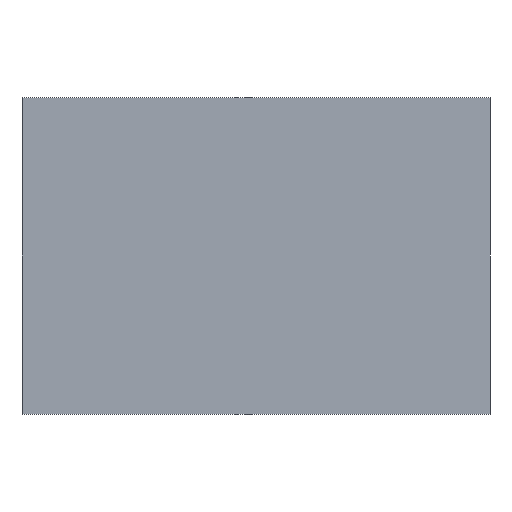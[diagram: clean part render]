
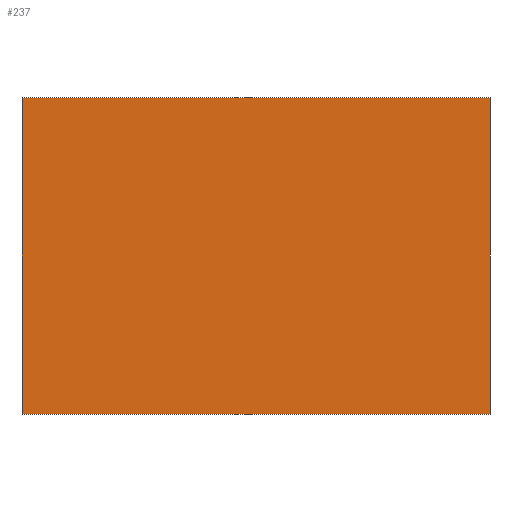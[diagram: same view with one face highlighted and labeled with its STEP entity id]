
A CAD part, front view. The second image highlights one B-rep face of the part: STEP entity #237.
In plain terms, the highlighted planar face has unit normal (0, -1, 0).
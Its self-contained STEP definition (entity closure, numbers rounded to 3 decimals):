
#21 = EDGE_CURVE('',#22,#24,#26,.T.);
#22 = VERTEX_POINT('',#23);
#23 = CARTESIAN_POINT('',(-398.,-76.913,-3.));
#24 = VERTEX_POINT('',#25);
#25 = CARTESIAN_POINT('',(-398.,-76.913,20.));
#26 = SURFACE_CURVE('',#27,(#31,#43),.PCURVE_S1.);
#27 = LINE('',#28,#29);
#28 = CARTESIAN_POINT('',(-398.,-76.913,-3.));
#29 = VECTOR('',#30,1.);
#30 = DIRECTION('',(0.,0.,1.));
#31 = PCURVE('',#32,#37);
#32 = PLANE('',#33);
#33 = AXIS2_PLACEMENT_3D('',#34,#35,#36);
#34 = CARTESIAN_POINT('',(-398.,-76.913,-3.));
#35 = DIRECTION('',(1.,0.,-0.));
#36 = DIRECTION('',(0.,0.,1.));
#37 = DEFINITIONAL_REPRESENTATION('',(#38),#42);
#38 = LINE('',#39,#40);
#39 = CARTESIAN_POINT('',(0.,0.));
#40 = VECTOR('',#41,1.);
#41 = DIRECTION('',(1.,0.));
#42 = ( GEOMETRIC_REPRESENTATION_CONTEXT(2) 
PARAMETRIC_REPRESENTATION_CONTEXT() REPRESENTATION_CONTEXT('2D SPACE',''
  ) );
#43 = PCURVE('',#44,#49);
#44 = PLANE('',#45);
#45 = AXIS2_PLACEMENT_3D('',#46,#47,#48);
#46 = CARTESIAN_POINT('',(-398.,-76.913,-3.));
#47 = DIRECTION('',(-0.,1.,0.));
#48 = DIRECTION('',(0.,0.,1.));
#49 = DEFINITIONAL_REPRESENTATION('',(#50),#54);
#50 = LINE('',#51,#52);
#51 = CARTESIAN_POINT('',(0.,0.));
#52 = VECTOR('',#53,1.);
#53 = DIRECTION('',(1.,0.));
#54 = ( GEOMETRIC_REPRESENTATION_CONTEXT(2) 
PARAMETRIC_REPRESENTATION_CONTEXT() REPRESENTATION_CONTEXT('2D SPACE',''
  ) );
#72 = PLANE('',#73);
#73 = AXIS2_PLACEMENT_3D('',#74,#75,#76);
#74 = CARTESIAN_POINT('',(-398.,-76.913,-3.));
#75 = DIRECTION('',(0.,0.,1.));
#76 = DIRECTION('',(1.,0.,-0.));
#126 = PLANE('',#127);
#127 = AXIS2_PLACEMENT_3D('',#128,#129,#130);
#128 = CARTESIAN_POINT('',(-398.,-76.913,20.));
#129 = DIRECTION('',(0.,0.,1.));
#130 = DIRECTION('',(1.,0.,-0.));
#141 = EDGE_CURVE('',#142,#144,#146,.T.);
#142 = VERTEX_POINT('',#143);
#143 = CARTESIAN_POINT('',(-364.,-76.913,-3.));
#144 = VERTEX_POINT('',#145);
#145 = CARTESIAN_POINT('',(-364.,-76.913,20.));
#146 = SURFACE_CURVE('',#147,(#151,#163),.PCURVE_S1.);
#147 = LINE('',#148,#149);
#148 = CARTESIAN_POINT('',(-364.,-76.913,-3.));
#149 = VECTOR('',#150,1.);
#150 = DIRECTION('',(0.,0.,1.));
#151 = PCURVE('',#152,#157);
#152 = PLANE('',#153);
#153 = AXIS2_PLACEMENT_3D('',#154,#155,#156);
#154 = CARTESIAN_POINT('',(-364.,-76.913,-3.));
#155 = DIRECTION('',(1.,0.,-0.));
#156 = DIRECTION('',(0.,0.,1.));
#157 = DEFINITIONAL_REPRESENTATION('',(#158),#162);
#158 = LINE('',#159,#160);
#159 = CARTESIAN_POINT('',(0.,0.));
#160 = VECTOR('',#161,1.);
#161 = DIRECTION('',(1.,0.));
#162 = ( GEOMETRIC_REPRESENTATION_CONTEXT(2) 
PARAMETRIC_REPRESENTATION_CONTEXT() REPRESENTATION_CONTEXT('2D SPACE',''
  ) );
#163 = PCURVE('',#44,#164);
#164 = DEFINITIONAL_REPRESENTATION('',(#165),#169);
#165 = LINE('',#166,#167);
#166 = CARTESIAN_POINT('',(0.,34.));
#167 = VECTOR('',#168,1.);
#168 = DIRECTION('',(1.,0.));
#169 = ( GEOMETRIC_REPRESENTATION_CONTEXT(2) 
PARAMETRIC_REPRESENTATION_CONTEXT() REPRESENTATION_CONTEXT('2D SPACE',''
  ) );
#237 = ADVANCED_FACE('',(#238),#44,.F.);
#238 = FACE_BOUND('',#239,.F.);
#239 = EDGE_LOOP('',(#240,#261,#262,#283));
#240 = ORIENTED_EDGE('',*,*,#241,.F.);
#241 = EDGE_CURVE('',#22,#142,#242,.T.);
#242 = SURFACE_CURVE('',#243,(#247,#254),.PCURVE_S1.);
#243 = LINE('',#244,#245);
#244 = CARTESIAN_POINT('',(-398.,-76.913,-3.));
#245 = VECTOR('',#246,1.);
#246 = DIRECTION('',(1.,0.,-0.));
#247 = PCURVE('',#44,#248);
#248 = DEFINITIONAL_REPRESENTATION('',(#249),#253);
#249 = LINE('',#250,#251);
#250 = CARTESIAN_POINT('',(0.,0.));
#251 = VECTOR('',#252,1.);
#252 = DIRECTION('',(0.,1.));
#253 = ( GEOMETRIC_REPRESENTATION_CONTEXT(2) 
PARAMETRIC_REPRESENTATION_CONTEXT() REPRESENTATION_CONTEXT('2D SPACE',''
  ) );
#254 = PCURVE('',#72,#255);
#255 = DEFINITIONAL_REPRESENTATION('',(#256),#260);
#256 = LINE('',#257,#258);
#257 = CARTESIAN_POINT('',(0.,0.));
#258 = VECTOR('',#259,1.);
#259 = DIRECTION('',(1.,0.));
#260 = ( GEOMETRIC_REPRESENTATION_CONTEXT(2) 
PARAMETRIC_REPRESENTATION_CONTEXT() REPRESENTATION_CONTEXT('2D SPACE',''
  ) );
#261 = ORIENTED_EDGE('',*,*,#21,.T.);
#262 = ORIENTED_EDGE('',*,*,#263,.T.);
#263 = EDGE_CURVE('',#24,#144,#264,.T.);
#264 = SURFACE_CURVE('',#265,(#269,#276),.PCURVE_S1.);
#265 = LINE('',#266,#267);
#266 = CARTESIAN_POINT('',(-398.,-76.913,20.));
#267 = VECTOR('',#268,1.);
#268 = DIRECTION('',(1.,0.,-0.));
#269 = PCURVE('',#44,#270);
#270 = DEFINITIONAL_REPRESENTATION('',(#271),#275);
#271 = LINE('',#272,#273);
#272 = CARTESIAN_POINT('',(23.,0.));
#273 = VECTOR('',#274,1.);
#274 = DIRECTION('',(0.,1.));
#275 = ( GEOMETRIC_REPRESENTATION_CONTEXT(2) 
PARAMETRIC_REPRESENTATION_CONTEXT() REPRESENTATION_CONTEXT('2D SPACE',''
  ) );
#276 = PCURVE('',#126,#277);
#277 = DEFINITIONAL_REPRESENTATION('',(#278),#282);
#278 = LINE('',#279,#280);
#279 = CARTESIAN_POINT('',(0.,0.));
#280 = VECTOR('',#281,1.);
#281 = DIRECTION('',(1.,0.));
#282 = ( GEOMETRIC_REPRESENTATION_CONTEXT(2) 
PARAMETRIC_REPRESENTATION_CONTEXT() REPRESENTATION_CONTEXT('2D SPACE',''
  ) );
#283 = ORIENTED_EDGE('',*,*,#141,.F.);
